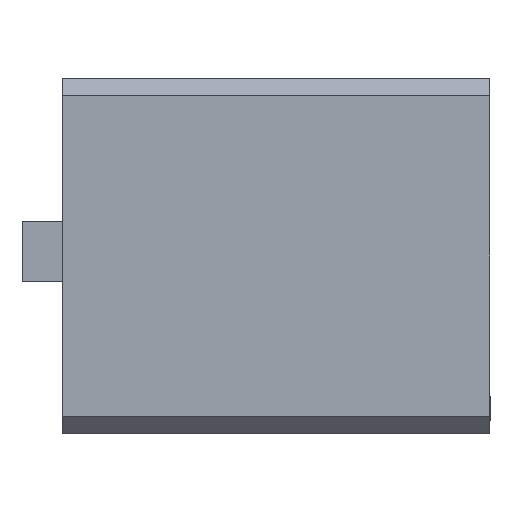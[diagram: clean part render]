
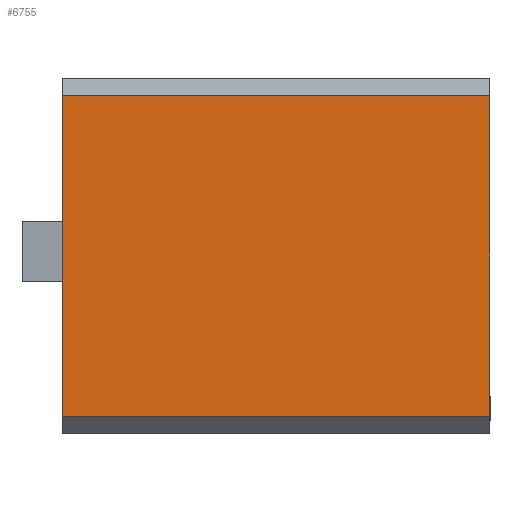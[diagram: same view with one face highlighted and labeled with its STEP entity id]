
A CAD part, front view. The second image highlights one B-rep face of the part: STEP entity #6755.
In plain terms, the highlighted planar face has unit normal (0, -1, 0).
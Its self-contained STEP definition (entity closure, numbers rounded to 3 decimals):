
#2111 = CARTESIAN_POINT ( 'NONE',  ( -36., -30., -27. ) ) ;
#2333 = VERTEX_POINT ( 'NONE', #8689 ) ;
#2714 = AXIS2_PLACEMENT_3D ( 'NONE', #25686, #12798, #27814 ) ;
#3377 = DIRECTION ( 'NONE',  ( 1., 0., 0. ) ) ;
#4162 = CARTESIAN_POINT ( 'NONE',  ( 36., -30., -27. ) ) ;
#4275 = DIRECTION ( 'NONE',  ( 1., 0., 0. ) ) ;
#5206 = EDGE_CURVE ( 'NONE', #27776, #2333, #19706, .T. ) ;
#5890 = FACE_OUTER_BOUND ( 'NONE', #7284, .T. ) ;
#6468 = VECTOR ( 'NONE', #26277, 1000. ) ;
#6755 = ADVANCED_FACE ( 'NONE', ( #5890 ), #17029, .F. ) ;
#7284 = EDGE_LOOP ( 'NONE', ( #12593, #26753, #22753, #25530 ) ) ;
#7558 = CARTESIAN_POINT ( 'NONE',  ( -36., -30., 27. ) ) ;
#8488 = CARTESIAN_POINT ( 'NONE',  ( -36., -30., -27. ) ) ;
#8689 = CARTESIAN_POINT ( 'NONE',  ( 36., -30., 27. ) ) ;
#8790 = EDGE_CURVE ( 'NONE', #2333, #10036, #15045, .T. ) ;
#9856 = LINE ( 'NONE', #8488, #14910 ) ;
#10036 = VERTEX_POINT ( 'NONE', #4162 ) ;
#11154 = VERTEX_POINT ( 'NONE', #2111 ) ;
#12010 = DIRECTION ( 'NONE',  ( 0., 0., -1. ) ) ;
#12160 = LINE ( 'NONE', #17641, #6468 ) ;
#12593 = ORIENTED_EDGE ( 'NONE', *, *, #26444, .T. ) ;
#12798 = DIRECTION ( 'NONE',  ( 0., 1., 0. ) ) ;
#14004 = VECTOR ( 'NONE', #3377, 1000. ) ;
#14910 = VECTOR ( 'NONE', #4275, 1000. ) ;
#15045 = LINE ( 'NONE', #27029, #20760 ) ;
#17029 = PLANE ( 'NONE',  #2714 ) ;
#17641 = CARTESIAN_POINT ( 'NONE',  ( -36., -30., 30. ) ) ;
#19706 = LINE ( 'NONE', #7558, #14004 ) ;
#20760 = VECTOR ( 'NONE', #12010, 1000. ) ;
#22753 = ORIENTED_EDGE ( 'NONE', *, *, #8790, .F. ) ;
#24890 = CARTESIAN_POINT ( 'NONE',  ( -36., -30., 27. ) ) ;
#25530 = ORIENTED_EDGE ( 'NONE', *, *, #5206, .F. ) ;
#25686 = CARTESIAN_POINT ( 'NONE',  ( 36., -30., 30. ) ) ;
#25748 = EDGE_CURVE ( 'NONE', #11154, #10036, #9856, .T. ) ;
#26277 = DIRECTION ( 'NONE',  ( 0., 0., -1. ) ) ;
#26444 = EDGE_CURVE ( 'NONE', #27776, #11154, #12160, .T. ) ;
#26753 = ORIENTED_EDGE ( 'NONE', *, *, #25748, .T. ) ;
#27029 = CARTESIAN_POINT ( 'NONE',  ( 36., -30., 30. ) ) ;
#27776 = VERTEX_POINT ( 'NONE', #24890 ) ;
#27814 = DIRECTION ( 'NONE',  ( 0., 0., 1. ) ) ;
